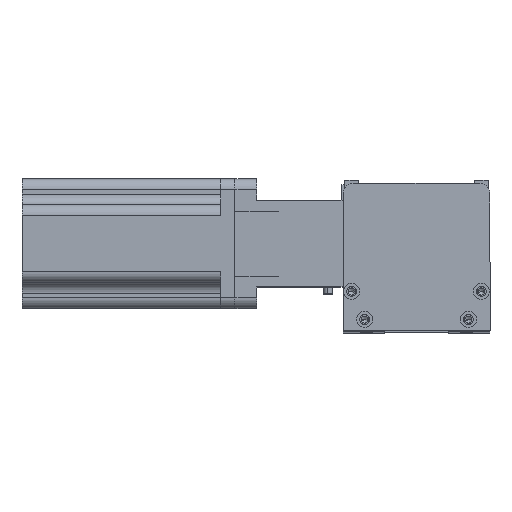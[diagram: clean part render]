
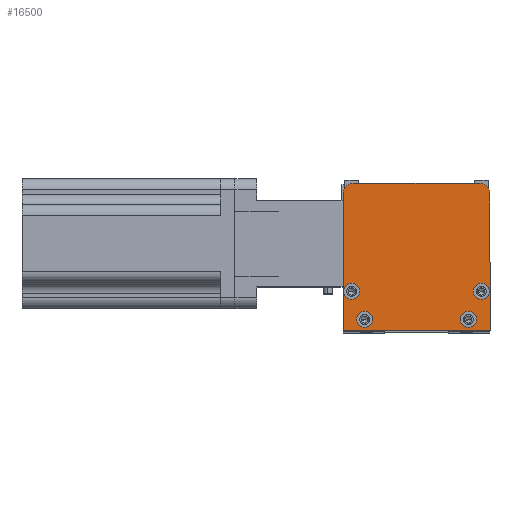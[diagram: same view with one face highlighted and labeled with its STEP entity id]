
A CAD part, top view. The second image highlights one B-rep face of the part: STEP entity #16500.
In plain terms, the highlighted planar face has unit normal (0, 0, 1) as drawn and (0, 0, -1) by its records, which use the part's own axes.
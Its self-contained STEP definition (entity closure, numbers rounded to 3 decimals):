
#2 = ORIENTED_EDGE ( 'NONE', *, *, #9387, .F. ) ;
#168 = VERTEX_POINT ( 'NONE', #907 ) ;
#182 = CARTESIAN_POINT ( 'NONE',  ( 0., 0., 0. ) ) ;
#646 = CARTESIAN_POINT ( 'NONE',  ( 0., 63., 0. ) ) ;
#676 = FACE_OUTER_BOUND ( 'NONE', #921, .T. ) ;
#907 = CARTESIAN_POINT ( 'NONE',  ( 61.75, 5., 0. ) ) ;
#921 = EDGE_LOOP ( 'NONE', ( #16379, #21011, #19229, #5777, #17777, #9271 ) ) ;
#1213 = EDGE_CURVE ( 'NONE', #168, #13356, #19045, .T. ) ;
#1290 = AXIS2_PLACEMENT_3D ( 'NONE', #2414, #16036, #4382 ) ;
#1304 = FACE_BOUND ( 'NONE', #14669, .T. ) ;
#1683 = CARTESIAN_POINT ( 'NONE',  ( 58., 5., 0. ) ) ;
#1790 = EDGE_CURVE ( 'NONE', #14386, #8967, #9031, .T. ) ;
#1967 = DIRECTION ( 'NONE',  ( 0., 0., -1. ) ) ;
#2142 = ORIENTED_EDGE ( 'NONE', *, *, #21686, .F. ) ;
#2368 = DIRECTION ( 'NONE',  ( 0., 0., -1. ) ) ;
#2414 = CARTESIAN_POINT ( 'NONE',  ( 63., 63., 0. ) ) ;
#2609 = CARTESIAN_POINT ( 'NONE',  ( 6.25, 5., 0. ) ) ;
#3625 = DIRECTION ( 'NONE',  ( -1., 0., 0. ) ) ;
#4162 = CARTESIAN_POINT ( 'NONE',  ( 5., 68., 0. ) ) ;
#4240 = AXIS2_PLACEMENT_3D ( 'NONE', #13648, #1967, #15579 ) ;
#4366 = EDGE_CURVE ( 'NONE', #11057, #23124, #23485, .T. ) ;
#4382 = DIRECTION ( 'NONE',  ( 1., 0., 0. ) ) ;
#4636 = CARTESIAN_POINT ( 'NONE',  ( 13.75, 5., 0. ) ) ;
#4802 = CARTESIAN_POINT ( 'NONE',  ( 10., 5., 0. ) ) ;
#4843 = AXIS2_PLACEMENT_3D ( 'NONE', #19930, #8266, #21948 ) ;
#4892 = DIRECTION ( 'NONE',  ( 0., 0., -1. ) ) ;
#5020 = CARTESIAN_POINT ( 'NONE',  ( 68., 0., 0. ) ) ;
#5120 = VERTEX_POINT ( 'NONE', #16337 ) ;
#5357 = DIRECTION ( 'NONE',  ( 0., 0., -1. ) ) ;
#5551 = DIRECTION ( 'NONE',  ( 1., 0., 0. ) ) ;
#5663 = VERTEX_POINT ( 'NONE', #20243 ) ;
#5777 = ORIENTED_EDGE ( 'NONE', *, *, #20209, .T. ) ;
#5846 = FACE_BOUND ( 'NONE', #9664, .T. ) ;
#6053 = EDGE_CURVE ( 'NONE', #23822, #23124, #18664, .T. ) ;
#6404 = ORIENTED_EDGE ( 'NONE', *, *, #20044, .F. ) ;
#6560 = VERTEX_POINT ( 'NONE', #2609 ) ;
#6582 = CIRCLE ( 'NONE', #14490, 3.75 ) ;
#6758 = DIRECTION ( 'NONE',  ( -1., 0., 0. ) ) ;
#6961 = DIRECTION ( 'NONE',  ( 0., 1., 0. ) ) ;
#7415 = VERTEX_POINT ( 'NONE', #16734 ) ;
#7579 = CIRCLE ( 'NONE', #19977, 3.75 ) ;
#7818 = CIRCLE ( 'NONE', #1290, 5. ) ;
#8026 = VERTEX_POINT ( 'NONE', #18827 ) ;
#8065 = PLANE ( 'NONE',  #15896 ) ;
#8148 = DIRECTION ( 'NONE',  ( 1., 0., 0. ) ) ;
#8266 = DIRECTION ( 'NONE',  ( 0., 0., -1. ) ) ;
#8585 = ORIENTED_EDGE ( 'NONE', *, *, #18642, .F. ) ;
#8960 = DIRECTION ( 'NONE',  ( 0., 0., -1. ) ) ;
#8967 = VERTEX_POINT ( 'NONE', #22901 ) ;
#9031 = CIRCLE ( 'NONE', #16931, 3.75 ) ;
#9271 = ORIENTED_EDGE ( 'NONE', *, *, #20574, .F. ) ;
#9387 = EDGE_CURVE ( 'NONE', #5663, #8026, #7579, .T. ) ;
#9396 = AXIS2_PLACEMENT_3D ( 'NONE', #17013, #5357, #18960 ) ;
#9653 = VECTOR ( 'NONE', #5551, 1000. ) ;
#9664 = EDGE_LOOP ( 'NONE', ( #2142, #21478 ) ) ;
#9669 = DIRECTION ( 'NONE',  ( 0., 0., -1. ) ) ;
#10236 = EDGE_LOOP ( 'NONE', ( #14633, #6404 ) ) ;
#10275 = LINE ( 'NONE', #13519, #9653 ) ;
#10614 = ORIENTED_EDGE ( 'NONE', *, *, #11140, .F. ) ;
#10758 = ORIENTED_EDGE ( 'NONE', *, *, #20349, .F. ) ;
#11057 = VERTEX_POINT ( 'NONE', #646 ) ;
#11066 = FACE_BOUND ( 'NONE', #12343, .T. ) ;
#11140 = EDGE_CURVE ( 'NONE', #6560, #21925, #6582, .T. ) ;
#12343 = EDGE_LOOP ( 'NONE', ( #10758, #2 ) ) ;
#12887 = DIRECTION ( 'NONE',  ( -1., 0., 0. ) ) ;
#13356 = VERTEX_POINT ( 'NONE', #16848 ) ;
#13368 = CIRCLE ( 'NONE', #18209, 3.75 ) ;
#13519 = CARTESIAN_POINT ( 'NONE',  ( 68., 0., 0. ) ) ;
#13603 = CIRCLE ( 'NONE', #21033, 3.75 ) ;
#13648 = CARTESIAN_POINT ( 'NONE',  ( 5., 63., 0. ) ) ;
#14079 = CARTESIAN_POINT ( 'NONE',  ( 4., 18., 0. ) ) ;
#14303 = CARTESIAN_POINT ( 'NONE',  ( 63., 68., 0. ) ) ;
#14386 = VERTEX_POINT ( 'NONE', #16178 ) ;
#14393 = CARTESIAN_POINT ( 'NONE',  ( 68., 0., 0. ) ) ;
#14490 = AXIS2_PLACEMENT_3D ( 'NONE', #4802, #18411, #6758 ) ;
#14633 = ORIENTED_EDGE ( 'NONE', *, *, #1790, .F. ) ;
#14669 = EDGE_LOOP ( 'NONE', ( #10614, #8585 ) ) ;
#14836 = AXIS2_PLACEMENT_3D ( 'NONE', #21386, #9669, #23319 ) ;
#15059 = VECTOR ( 'NONE', #6961, 1000. ) ;
#15299 = DIRECTION ( 'NONE',  ( 0., 0., -1. ) ) ;
#15579 = DIRECTION ( 'NONE',  ( 1., 0., 0. ) ) ;
#15896 = AXIS2_PLACEMENT_3D ( 'NONE', #15919, #19807, #8148 ) ;
#15919 = CARTESIAN_POINT ( 'NONE',  ( 0., 0., 0. ) ) ;
#16000 = DIRECTION ( 'NONE',  ( -1., 0., 0. ) ) ;
#16036 = DIRECTION ( 'NONE',  ( 0., 0., -1. ) ) ;
#16178 = CARTESIAN_POINT ( 'NONE',  ( 0.25, 18., 0. ) ) ;
#16240 = LINE ( 'NONE', #5020, #15059 ) ;
#16337 = CARTESIAN_POINT ( 'NONE',  ( 0., 0., 0. ) ) ;
#16379 = ORIENTED_EDGE ( 'NONE', *, *, #20689, .F. ) ;
#16500 = ADVANCED_FACE ( 'NONE', ( #11066, #21453, #1304, #5846, #676 ), #8065, .F. ) ;
#16540 = CARTESIAN_POINT ( 'NONE',  ( 64., 18., 0. ) ) ;
#16734 = CARTESIAN_POINT ( 'NONE',  ( 68., 63., 0. ) ) ;
#16848 = CARTESIAN_POINT ( 'NONE',  ( 54.25, 5., 0. ) ) ;
#16931 = AXIS2_PLACEMENT_3D ( 'NONE', #14079, #2368, #16000 ) ;
#17013 = CARTESIAN_POINT ( 'NONE',  ( 10., 5., 0. ) ) ;
#17292 = VERTEX_POINT ( 'NONE', #14393 ) ;
#17622 = DIRECTION ( 'NONE',  ( 0., -1., 0. ) ) ;
#17777 = ORIENTED_EDGE ( 'NONE', *, *, #23354, .F. ) ;
#18209 = AXIS2_PLACEMENT_3D ( 'NONE', #20660, #8960, #22620 ) ;
#18411 = DIRECTION ( 'NONE',  ( 0., 0., -1. ) ) ;
#18482 = DIRECTION ( 'NONE',  ( -1., 0., 0. ) ) ;
#18642 = EDGE_CURVE ( 'NONE', #21925, #6560, #19731, .T. ) ;
#18664 = LINE ( 'NONE', #24538, #18719 ) ;
#18719 = VECTOR ( 'NONE', #12887, 1000. ) ;
#18827 = CARTESIAN_POINT ( 'NONE',  ( 60.25, 18., 0. ) ) ;
#18960 = DIRECTION ( 'NONE',  ( -1., 0., 0. ) ) ;
#19045 = CIRCLE ( 'NONE', #4843, 3.75 ) ;
#19229 = ORIENTED_EDGE ( 'NONE', *, *, #6053, .F. ) ;
#19731 = CIRCLE ( 'NONE', #9396, 3.75 ) ;
#19807 = DIRECTION ( 'NONE',  ( 0., 0., 1. ) ) ;
#19930 = CARTESIAN_POINT ( 'NONE',  ( 58., 5., 0. ) ) ;
#19977 = AXIS2_PLACEMENT_3D ( 'NONE', #16540, #4892, #18482 ) ;
#20044 = EDGE_CURVE ( 'NONE', #8967, #14386, #25217, .T. ) ;
#20209 = EDGE_CURVE ( 'NONE', #23822, #7415, #7818, .T. ) ;
#20243 = CARTESIAN_POINT ( 'NONE',  ( 67.75, 18., 0. ) ) ;
#20349 = EDGE_CURVE ( 'NONE', #8026, #5663, #13368, .T. ) ;
#20574 = EDGE_CURVE ( 'NONE', #5120, #17292, #10275, .T. ) ;
#20660 = CARTESIAN_POINT ( 'NONE',  ( 64., 18., 0. ) ) ;
#20689 = EDGE_CURVE ( 'NONE', #11057, #5120, #22775, .T. ) ;
#21011 = ORIENTED_EDGE ( 'NONE', *, *, #4366, .T. ) ;
#21033 = AXIS2_PLACEMENT_3D ( 'NONE', #1683, #15299, #3625 ) ;
#21386 = CARTESIAN_POINT ( 'NONE',  ( 4., 18., 0. ) ) ;
#21453 = FACE_BOUND ( 'NONE', #10236, .T. ) ;
#21478 = ORIENTED_EDGE ( 'NONE', *, *, #1213, .F. ) ;
#21686 = EDGE_CURVE ( 'NONE', #13356, #168, #13603, .T. ) ;
#21925 = VERTEX_POINT ( 'NONE', #4636 ) ;
#21948 = DIRECTION ( 'NONE',  ( -1., 0., 0. ) ) ;
#22173 = VECTOR ( 'NONE', #17622, 1000. ) ;
#22620 = DIRECTION ( 'NONE',  ( -1., 0., 0. ) ) ;
#22775 = LINE ( 'NONE', #182, #22173 ) ;
#22901 = CARTESIAN_POINT ( 'NONE',  ( 7.75, 18., 0. ) ) ;
#23124 = VERTEX_POINT ( 'NONE', #4162 ) ;
#23319 = DIRECTION ( 'NONE',  ( -1., 0., 0. ) ) ;
#23354 = EDGE_CURVE ( 'NONE', #17292, #7415, #16240, .T. ) ;
#23485 = CIRCLE ( 'NONE', #4240, 5. ) ;
#23822 = VERTEX_POINT ( 'NONE', #14303 ) ;
#24538 = CARTESIAN_POINT ( 'NONE',  ( 68., 68., 0. ) ) ;
#25217 = CIRCLE ( 'NONE', #14836, 3.75 ) ;
